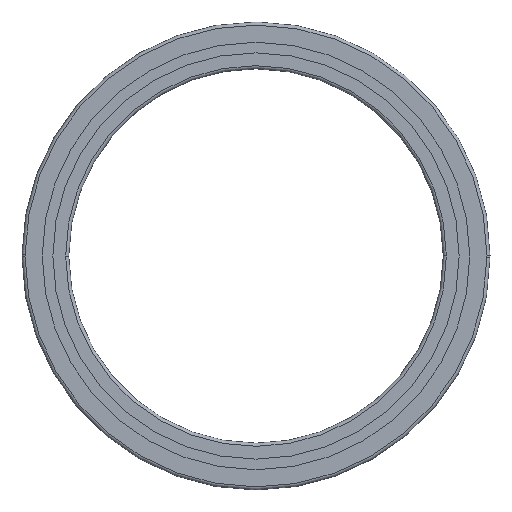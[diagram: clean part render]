
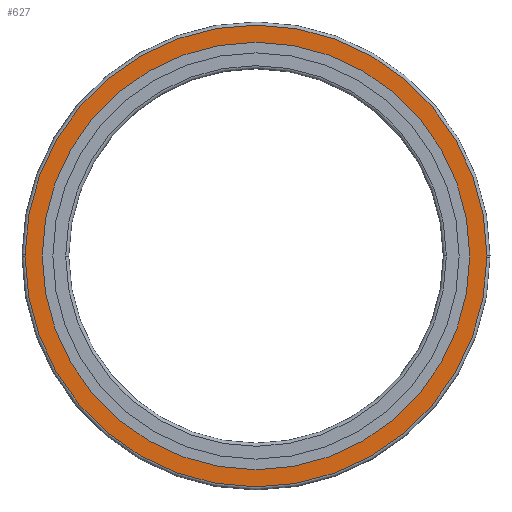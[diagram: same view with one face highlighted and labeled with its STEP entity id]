
A CAD part, front view. The second image highlights one B-rep face of the part: STEP entity #627.
In plain terms, the highlighted planar face has unit normal (0, -1, 0).
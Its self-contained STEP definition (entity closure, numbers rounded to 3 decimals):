
#351=VERTEX_POINT('',#891);
#409=EDGE_CURVE('',#633,#713,#961,.T.);
#435=VERTEX_POINT('',#988);
#575=VERTEX_POINT('',#1147);
#599=EDGE_CURVE('',#435,#575,#1175,.T.);
#627=ADVANCED_FACE('',(#1206,#1207),#1208,.F.);
#633=VERTEX_POINT('',#1214);
#673=EDGE_CURVE('',#739,#351,#1260,.T.);
#677=EDGE_CURVE('',#713,#633,#1265,.T.);
#713=VERTEX_POINT('',#1305);
#715=EDGE_CURVE('',#575,#739,#1307,.T.);
#739=VERTEX_POINT('',#1332);
#817=EDGE_CURVE('',#351,#435,#1419,.T.);
#891=CARTESIAN_POINT('',(147.997,0.0,-0.915));
#961=CIRCLE('',#1590,137.0);
#988=CARTESIAN_POINT('',(148.0,0.0,0.0));
#1147=CARTESIAN_POINT('',(-147.997,0.0,0.915));
#1175=CIRCLE('',#1850,148.0);
#1206=FACE_OUTER_BOUND('',#1890,.T.);
#1207=FACE_BOUND('',#1891,.T.);
#1208=PLANE('',#1892);
#1214=CARTESIAN_POINT('',(137.0,0.0,0.));
#1260=CIRCLE('',#1954,148.0);
#1265=CIRCLE('',#1960,137.0);
#1305=CARTESIAN_POINT('',(-137.0,0.0,0.0));
#1307=CIRCLE('',#2012,148.0);
#1332=CARTESIAN_POINT('',(-148.0,0.0,0.));
#1419=CIRCLE('',#2151,148.0);
#1590=AXIS2_PLACEMENT_3D('',#2327,#2328,#2329);
#1850=AXIS2_PLACEMENT_3D('',#2617,#2618,#2619);
#1890=EDGE_LOOP('',(#2660,#2661,#2662,#2663));
#1891=EDGE_LOOP('',(#2664,#2665));
#1892=AXIS2_PLACEMENT_3D('',#2666,#2667,#2668);
#1954=AXIS2_PLACEMENT_3D('',#2736,#2737,#2738);
#1960=AXIS2_PLACEMENT_3D('',#2747,#2748,#2749);
#2012=AXIS2_PLACEMENT_3D('',#2804,#2805,#2806);
#2151=AXIS2_PLACEMENT_3D('',#2936,#2937,#2938);
#2327=CARTESIAN_POINT('',(0.0,0.0,0.0));
#2328=DIRECTION('',(0.0,-1.0,0.0));
#2329=DIRECTION('',(1.0,0.0,0.0));
#2617=CARTESIAN_POINT('',(0.0,0.0,0.0));
#2618=DIRECTION('',(0.0,-1.0,0.0));
#2619=DIRECTION('',(1.0,0.0,0.0));
#2660=ORIENTED_EDGE('',*,*,#673,.T.);
#2661=ORIENTED_EDGE('',*,*,#817,.T.);
#2662=ORIENTED_EDGE('',*,*,#599,.T.);
#2663=ORIENTED_EDGE('',*,*,#715,.T.);
#2664=ORIENTED_EDGE('',*,*,#677,.F.);
#2665=ORIENTED_EDGE('',*,*,#409,.F.);
#2666=CARTESIAN_POINT('',(0.0,0.0,0.0));
#2667=DIRECTION('',(0.0,1.0,0.0));
#2668=DIRECTION('',(1.0,0.0,-0.0));
#2736=CARTESIAN_POINT('',(0.0,0.0,0.0));
#2737=DIRECTION('',(0.0,-1.0,0.0));
#2738=DIRECTION('',(-1.0,0.0,0.0));
#2747=CARTESIAN_POINT('',(0.0,0.0,0.0));
#2748=DIRECTION('',(0.0,-1.0,0.0));
#2749=DIRECTION('',(-1.0,0.0,0.0));
#2804=CARTESIAN_POINT('',(0.0,0.0,0.0));
#2805=DIRECTION('',(0.0,-1.0,0.0));
#2806=DIRECTION('',(1.0,0.0,0.0));
#2936=CARTESIAN_POINT('',(0.0,0.0,0.0));
#2937=DIRECTION('',(0.0,-1.0,0.0));
#2938=DIRECTION('',(-1.0,0.0,0.0));
